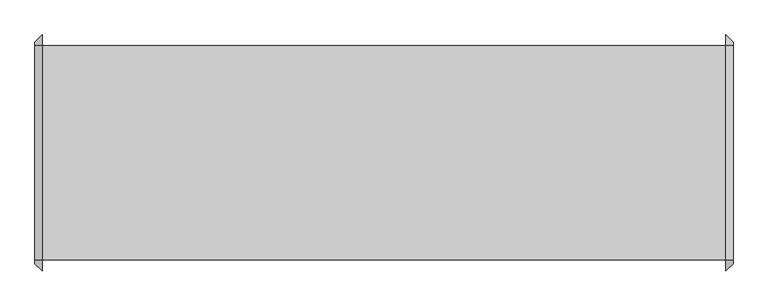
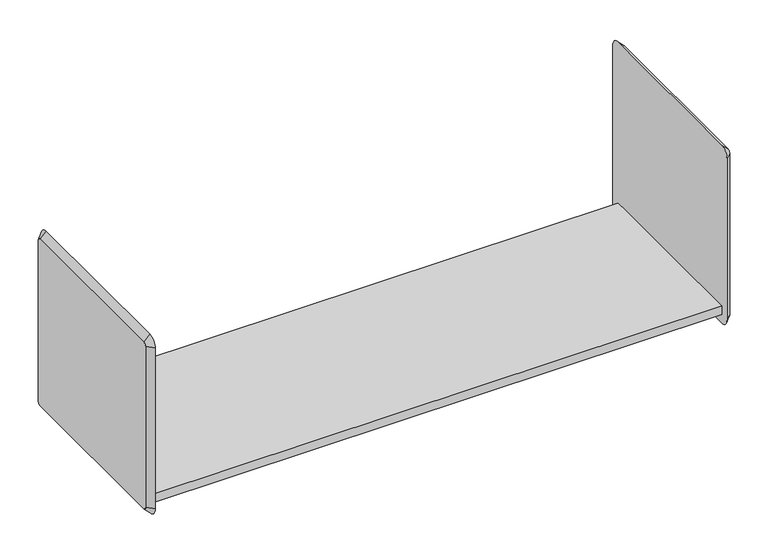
"""IFC4 building model written with IfcOpenShell, lengths in millimetres: furniture geometry, HermanMiller_ActionOffice_A3210_B-StyleShelf : 15-1/2H 16D 48W."""

from ifc_helpers import new_model, si_unit, frame, origin, place, context, project, spatial, polyline, circle_curve, outline, extrude, source, transform, mapped, element, save
from ifc_brep_helpers import plane_surface, revolved_surface, advanced_brep


def furniture_5dd508a7(model_context):
    return source(origin(), model_context, "Body", "SolidModel", [
        extrude(outline(polyline([(472.9579955, 200.025), (472.9579955, 196.85), (-720.8420045, 196.85), (-720.8420045, 200.025), (472.9579955, 200.025)])), frame((0.0, 0.0, 1657.3152313), z_axis=(0.0, 0.0, 1.0), x_axis=(1.0, 0.0, 0.0)), (0.0, 0.0, 1.0), 15.9097687),
        extrude(outline(polyline([(-174.625, 1676.4), (200.025, 1676.4), (200.025, 1673.225), (-171.45, 1673.225), (-171.45, 1657.3152313), (-174.625, 1657.3152313), (-174.625, 1676.4)])), frame((-720.8420045, 0.0, 0.0), z_axis=(1.0, 0.0, 0.0), x_axis=(0.0, 1.0, 0.0)), (0.0, 0.0, 1.0), 1193.8),
        advanced_brep(
        [(485.6579955, 200.025, 2019.3), (485.6579955, -174.625, 2019.3), (485.6579955, -180.975, 2012.95), (485.6579955, -180.975, 1657.35), (485.6579955, -174.625, 1651.0), (485.6579955, 200.025, 1651.0), (485.6579955, 206.375, 1657.35), (485.6579955, 206.375, 2012.95), (472.9579955, 200.025, 2032.0), (472.9579955, 219.075, 2012.95), (472.9579955, 219.075, 1657.35), (472.9579955, 200.025, 1638.3), (472.9579955, -174.625, 1638.3), (472.9579955, -193.675, 1657.35), (472.9579955, -193.675, 2012.95), (472.9579955, -174.625, 2032.0)],
        [
            (0, 1),
            (1, 2, circle_curve(frame((485.6579955, -174.625, 2012.95), z_axis=(1.0, 0.0, 0.0), x_axis=(0.0, 0.0, 1.0)), 6.35)),
            (2, 3),
            (3, 4, circle_curve(frame((485.6579955, -174.625, 1657.35), z_axis=(1.0, 0.0, 0.0), x_axis=(0.0, -1.0, 0.0)), 6.35)),
            (4, 5),
            (5, 6, circle_curve(frame((485.6579955, 200.025, 1657.35), z_axis=(1.0, 0.0, 0.0), x_axis=(0.0, 0.0, -1.0)), 6.35)),
            (6, 7),
            (7, 0, circle_curve(frame((485.6579955, 200.025, 2012.95), z_axis=(1.0, 0.0, 0.0), x_axis=(0.0, 1.0, 0.0)), 6.35)),
            (8, 9, circle_curve(frame((472.9579955, 200.025, 2012.95), z_axis=(-1.0, 0.0, 0.0), x_axis=(0.0, 1.0, 0.0)), 19.05)),
            (9, 10),
            (10, 11, circle_curve(frame((472.9579955, 200.025, 1657.35), z_axis=(-1.0, 0.0, 0.0), x_axis=(0.0, 0.0, -1.0)), 19.05)),
            (11, 12),
            (12, 13, circle_curve(frame((472.9579955, -174.625, 1657.35), z_axis=(-1.0, 0.0, 0.0), x_axis=(0.0, -1.0, 0.0)), 19.05)),
            (13, 14),
            (14, 15, circle_curve(frame((472.9579955, -174.625, 2012.95), z_axis=(-1.0, 0.0, 0.0), x_axis=(0.0, 0.0, 1.0)), 19.05)),
            (15, 8),
            (15, 1),
            (0, 8),
            (14, 2),
            (13, 3),
            (12, 4),
            (11, 5),
            (10, 6),
            (9, 7),
        ],
        [
            plane_surface(frame((485.6579955, 12.7, 1835.15), z_axis=(1.0, 0.0, 0.0), x_axis=(0.0, -1.0, 0.0))),
            plane_surface(frame((472.9579955, 12.7, 1835.15), z_axis=(-1.0, 0.0, 0.0), x_axis=(0.0, -1.0, 0.0))),
            plane_surface(frame((472.9579955, 12.7, 2032.0), z_axis=(0.7071067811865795, 0.0, 0.7071067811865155), x_axis=(0.0, -1.0, 0.0))),
            revolved_surface(polyline([(485.6579955, -174.625, 2019.3), (472.9579955, -174.625, 2032.0)]), (492.0079955, -174.625, 2012.95), (-1.0, 0.0, 0.0)),
            plane_surface(frame((472.9579955, -193.675, 1835.15), z_axis=(0.7071067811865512, -0.7071067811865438, 0.0), x_axis=(0.0, 0.0, -1.0))),
            revolved_surface(polyline([(485.6579955, -180.97499999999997, 1657.35), (472.9579955, -193.675, 1657.35)]), (492.0079955, -174.625, 1657.35), (-1.0, 0.0, 0.0)),
            plane_surface(frame((472.9579955, 12.7, 1638.3), z_axis=(0.7071067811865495, 0.0, -0.7071067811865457), x_axis=(0.0, 1.0, 0.0))),
            revolved_surface(polyline([(485.6579955, 200.025, 1651.0), (472.9579955, 200.025, 1638.3)]), (492.0079955, 200.025, 1657.35), (-1.0, 0.0, 0.0)),
            plane_surface(frame((472.9579955, 219.075, 1835.15), z_axis=(0.7071067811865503, 0.7071067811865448, 0.0), x_axis=(0.0, 0.0, 1.0))),
            revolved_surface(polyline([(485.6579955, 206.37499999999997, 2012.95), (472.9579955, 219.075, 2012.95)]), (492.0079955, 200.025, 2012.95), (-1.0, 0.0, 0.0)),
        ],
        [
            (0, [[1, 2, 3, 4, 5, 6, 7, 8]]),
            (1, [[9, 10, 11, 12, 13, 14, 15, 16]]),
            (2, [[-16, 17, -1, 18]]),
            (3, [[-15, 19, -2, -17]]),
            (4, [[-14, 20, -3, -19]]),
            (5, [[-13, 21, -4, -20]]),
            (6, [[-12, 22, -5, -21]]),
            (7, [[-11, 23, -6, -22]]),
            (8, [[-10, 24, -7, -23]]),
            (9, [[-9, -18, -8, -24]]),
        ],
    ),
        advanced_brep(
        [(-733.5420045, -174.625, 2019.3), (-733.5420045, 200.025, 2019.3), (-733.5420045, 206.375, 2012.95), (-733.5420045, 206.375, 1657.35), (-733.5420045, 200.025, 1651.0), (-733.5420045, -174.625, 1651.0), (-733.5420045, -180.975, 1657.35), (-733.5420045, -180.975, 2012.95), (-720.8420045, -174.625, 2032.0), (-720.8420045, -193.675, 2012.95), (-720.8420045, -193.675, 1657.35), (-720.8420045, -174.625, 1638.3), (-720.8420045, 200.025, 1638.3), (-720.8420045, 219.075, 1657.35), (-720.8420045, 219.075, 2012.95), (-720.8420045, 200.025, 2032.0)],
        [
            (0, 1),
            (1, 2, circle_curve(frame((-733.5420045, 200.025, 2012.95), z_axis=(-1.0, -1.8838264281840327e-12, -1.8118839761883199e-12), x_axis=(-1.811886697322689e-12, 0.0, 1.0)), 6.35)),
            (2, 3),
            (3, 4, circle_curve(frame((-733.5420045, 200.025, 1657.35), z_axis=(-1.0, 0.0, 0.0), x_axis=(0.0, 1.0, 0.0)), 6.35)),
            (4, 5),
            (5, 6, circle_curve(frame((-733.5420045, -174.625, 1657.35), z_axis=(-1.0, 0.0, 0.0), x_axis=(0.0, 0.0, -1.0)), 6.35)),
            (6, 7),
            (7, 0, circle_curve(frame((-733.5420045, -174.625, 2012.95), z_axis=(-1.0, -1.875832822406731e-12, 1.9397816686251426e-12), x_axis=(1.875789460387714e-12, -1.0, 0.0)), 6.35)),
            (8, 9, circle_curve(frame((-720.8420045, -174.625, 2012.95), z_axis=(1.0, 1.875832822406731e-12, -1.9397816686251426e-12), x_axis=(1.875789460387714e-12, -1.0, 0.0)), 19.05)),
            (9, 10),
            (10, 11, circle_curve(frame((-720.8420045, -174.625, 1657.35), z_axis=(1.0, 0.0, 0.0), x_axis=(0.0, 0.0, -1.0)), 19.05)),
            (11, 12),
            (12, 13, circle_curve(frame((-720.8420045, 200.025, 1657.35), z_axis=(1.0, 0.0, 0.0), x_axis=(0.0, 1.0, 0.0)), 19.05)),
            (13, 14),
            (14, 15, circle_curve(frame((-720.8420045, 200.025, 2012.95), z_axis=(1.0, 1.8838264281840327e-12, 1.8118839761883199e-12), x_axis=(-1.811886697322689e-12, 0.0, 1.0)), 19.05)),
            (15, 8),
            (15, 1),
            (0, 8),
            (14, 2),
            (13, 3),
            (12, 4),
            (11, 5),
            (10, 6),
            (9, 7),
        ],
        [
            plane_surface(frame((-733.5420045, 12.7, 1835.15), z_axis=(-1.0, 0.0, 0.0), x_axis=(0.0, -1.0, 0.0))),
            plane_surface(frame((-720.8420045, 12.7, 1835.15), z_axis=(1.0, 0.0, 0.0), x_axis=(0.0, -1.0, 0.0))),
            plane_surface(frame((-720.8420045, 12.7, 2032.0), z_axis=(-0.7071067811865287, 0.0, 0.7071067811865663), x_axis=(0.0, 1.0, 0.0))),
            revolved_surface(polyline([(-733.5420045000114, 200.025, 2019.2999999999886), (-720.8420044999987, 200.025, 2032.0000000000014)]), (-739.8920045, 200.025, 2012.95), (1.0, 1.8838264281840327e-12, 1.8118839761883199e-12)),
            plane_surface(frame((-720.8420045, 219.075, 1835.15), z_axis=(-0.7071067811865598, 0.7071067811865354, 0.0), x_axis=(0.0, 0.0, -1.0))),
            revolved_surface(polyline([(-733.5420045, 206.37500000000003, 1657.35), (-720.8420045, 219.075, 1657.35)]), (-739.8920045, 200.025, 1657.35), (1.0, 0.0, 0.0)),
            plane_surface(frame((-720.8420045, 12.7, 1638.3), z_axis=(-0.7071067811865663, 0.0, -0.7071067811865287), x_axis=(0.0, -1.0, 0.0))),
            revolved_surface(polyline([(-733.5420045, -174.625, 1651.0), (-720.8420045, -174.625, 1638.3)]), (-739.8920045, -174.625, 1657.35), (1.0, 0.0, 0.0)),
            plane_surface(frame((-720.8420045, -193.675, 1835.15), z_axis=(-0.7071067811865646, -0.7071067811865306, 0.0), x_axis=(0.0, 0.0, 1.0))),
            revolved_surface(polyline([(-733.5420045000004, -180.97499999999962, 2012.95), (-720.8420044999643, -193.67500000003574, 2012.95)]), (-739.8920045, -174.625, 2012.95), (1.0, 1.875832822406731e-12, -1.9397816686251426e-12)),
        ],
        [
            (0, [[1, 2, 3, 4, 5, 6, 7, 8]]),
            (1, [[9, 10, 11, 12, 13, 14, 15, 16]]),
            (2, [[-16, 17, -1, 18]]),
            (3, [[-15, 19, -2, -17]]),
            (4, [[-14, 20, -3, -19]]),
            (5, [[-13, 21, -4, -20]]),
            (6, [[-12, 22, -5, -21]]),
            (7, [[-11, 23, -6, -22]]),
            (8, [[-10, 24, -7, -23]]),
            (9, [[-9, -18, -8, -24]]),
        ],
    ),
    ])


if __name__ == "__main__":
    model = new_model("IFC4")
    model_context = context("Model", 3, world=origin())
    ifc_project = project(units=[si_unit("LENGTHUNIT", "METRE", prefix="MILLI")], contexts=[model_context])
    site = spatial("IfcSite", under=ifc_project)
    building = spatial("IfcBuilding", under=site)
    placement = place(None, origin())
    furniture_shape = furniture_5dd508a7(model_context)
    element("IfcFurniture", 1, ObjectType="HermanMiller_ActionOffice_A3210_B-StyleShelf : 15-1/2H 16D 48W", at=placement, inside=building, context=model_context, shape_type="MappedRepresentation", body=[
        mapped(furniture_shape, transform((0.0, 0.0, 0.0), x_axis=(1.0, 0.0, 0.0), y_axis=(0.0, 1.0, 0.0), z_axis=(0.0, 0.0, 1.0))),
    ])
    save(model, "model.ifc")
